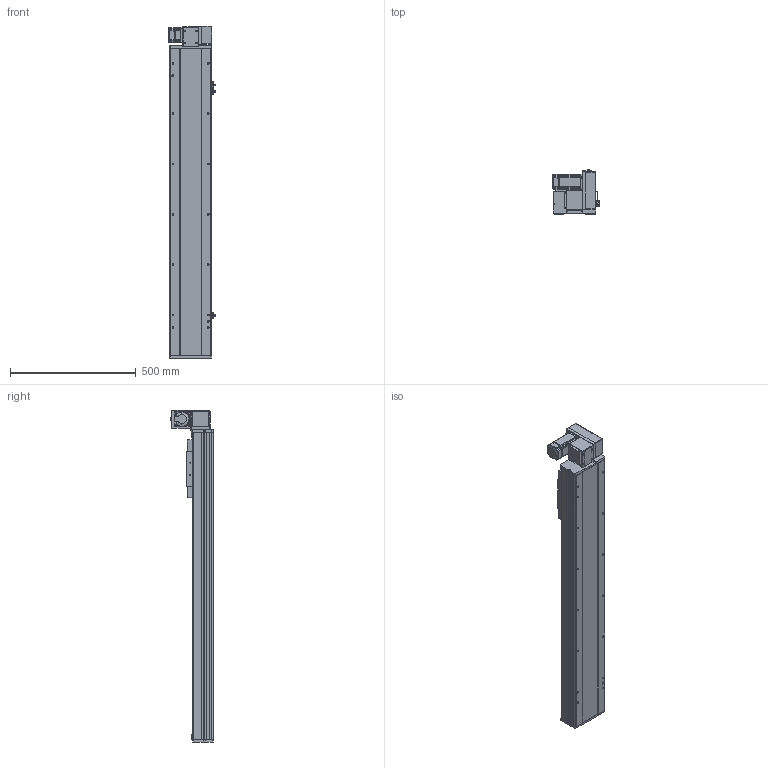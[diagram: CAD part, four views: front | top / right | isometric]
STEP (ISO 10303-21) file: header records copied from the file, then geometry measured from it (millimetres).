
FILE_DESCRIPTION (( 'STEP AP214' ), '1' );
FILE_NAME ('TPE17-L40-900-RU-T40-C4.STEP', '2023-04-12T07:49:44', ( '' ), ( '' ), 'SwSTEP 2.0', 'SolidWorks 2020', '' );
FILE_SCHEMA (( 'AUTOMOTIVE_DESIGN' ));
Length unit declared in the file: millimetre
Products named in the file (12): 葩璃 詩湍110^TPE17-L40-RU-T40-C4; 葩璃 TPT14-L-009 萇儂啣^TPE17-L40-RU-T40-C4_400W; hexagon head bolts-full thread gb_GB_FASTENER_BOLT_STBAB A M5X16-N; hex nuts, style 1-grades ab gb_GB_FASTENER_NUT_SNAB1 M3-N; 葩璃 TPE17-L-007 々湍釱MZ-169x88^TPE17-L40-RU-T40-C4_TPE17; hexagon socket head cap screws gb_GB_FASTENER_SCREWS_HSHCS M3X6-N; 葩璃 侂狟400W^TPE17-L40-RU-T40-C4; 葩璃 TPE17 賑雄殤^TPE17-L40-RU-T40-C4; 葩璃 TPE17-L-001 菁釱MZ-170-01^TPE17-L40-RU-T40-C4; 葩璃 pm-t65-672^TPE17-L40-RU-T40-C4; TPE17-L40-900-RU-T40-C4; 葩璃 TPE17-L-002 耜裔ZTMZ-135-04^TPE17-L40-RU-T40-C4
Assembly tree (24 placements, depth 2):
  TPE17-L40-900-RU-T40-C4
    葩璃 TPE17-L-001 菁釱MZ-170-01^TPE17-L40-RU-T40-C4
    葩璃 TPE17-L-002 耜裔ZTMZ-135-04^TPE17-L40-RU-T40-C4  x2
    葩璃 詩湍110^TPE17-L40-RU-T40-C4
    葩璃 TPE17-L-007 々湍釱MZ-169x88^TPE17-L40-RU-T40-C4_TPE17
    葩璃 TPT14-L-009 萇儂啣^TPE17-L40-RU-T40-C4_400W
    葩璃 TPE17 賑雄殤^TPE17-L40-RU-T40-C4
    葩璃 pm-t65-672^TPE17-L40-RU-T40-C4  x3
    葩璃 侂狟400W^TPE17-L40-RU-T40-C4
    hexagon socket head cap screws gb_GB_FASTENER_SCREWS_HSHCS M3X6-N  x6
    hex nuts, style 1-grades ab gb_GB_FASTENER_NUT_SNAB1 M3-N  x6
    hexagon head bolts-full thread gb_GB_FASTENER_BOLT_STBAB A M5X16-N
Bounding box: 186.2 x 173.15 x 1319 mm (x, y, z)
Volume: 11901363.1 mm3; surface area: 1644406.8 mm2
Topology: 35 solids, 35 shells, 1698 faces, 4327 edges, 2728 vertices
Faces by surface type: plane 981, cylinder 465, cone 206, bspline 34, torus 12
Entity records: 39851 total; most frequent: CARTESIAN_POINT 7820, DIRECTION 6392, ORIENTED_EDGE 6182, EDGE_CURVE 3091, AXIS2_PLACEMENT_3D 2173, VECTOR 2046, LINE 2046, VERTEX_POINT 1991
